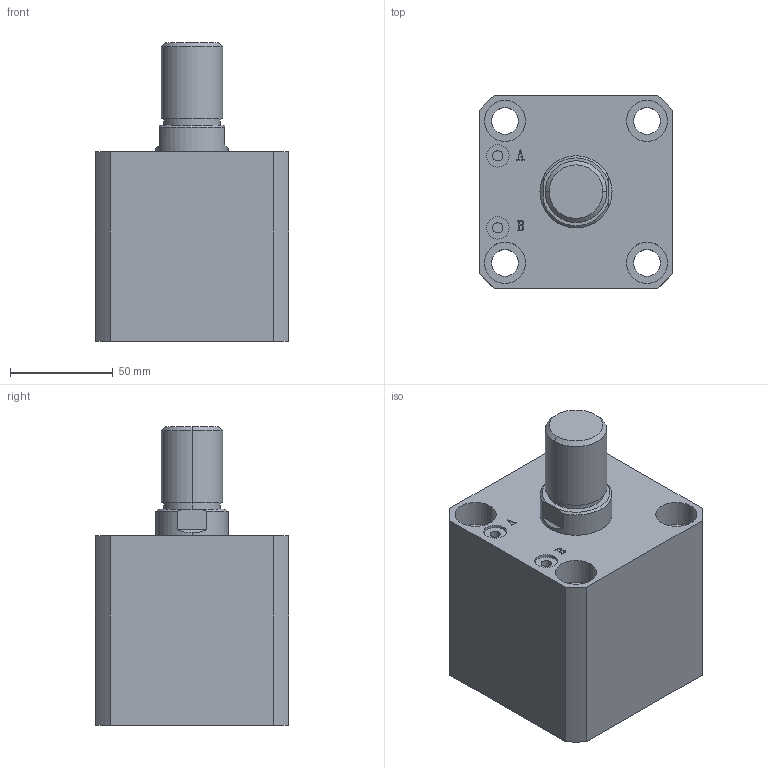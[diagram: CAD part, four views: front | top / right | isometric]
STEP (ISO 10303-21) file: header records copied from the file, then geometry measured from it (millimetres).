
FILE_DESCRIPTION (( 'STEP AP203' ), '1' );
FILE_NAME ('HTB-SDMA63-25W.STEP', '2019-10-08T01:02:50', ( '微软用户' ), ( '微软中国' ), 'SwSTEP 2.0', 'SolidWorks 2012', '' );
FILE_SCHEMA (( 'CONFIG_CONTROL_DESIGN' ));
Length unit declared in the file: millimetre
Products named in the file (3): HTB-SDMA63-25W; HTB-SDMA63-25W活塞杆; HTB-SDMA63-25掛极
Assembly tree (2 placements, depth 2):
  HTB-SDMA63-25W
    HTB-SDMA63-25掛极
    HTB-SDMA63-25W活塞杆
Bounding box: 94 x 94 x 145 mm (x, y, z)
Volume: 720838.6 mm3; surface area: 105095.8 mm2
Topology: 2 solids, 2 shells, 141 faces, 337 edges, 222 vertices
Faces by surface type: plane 67, cylinder 48, bspline 16, torus 6, cone 4
Entity records: 5176 total; most frequent: CARTESIAN_POINT 1593, ORIENTED_EDGE 674, DIRECTION 669, EDGE_CURVE 337, AXIS2_PLACEMENT_3D 242, VERTEX_POINT 222, LINE 185, VECTOR 185
